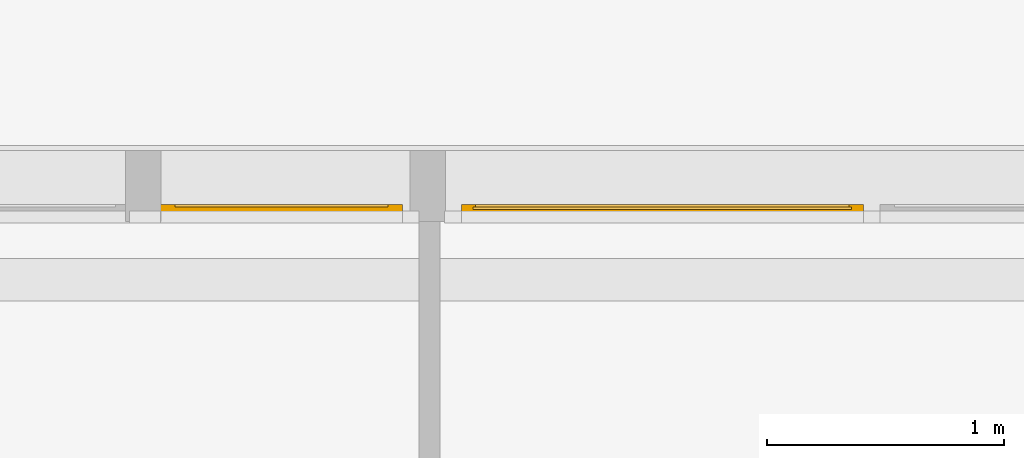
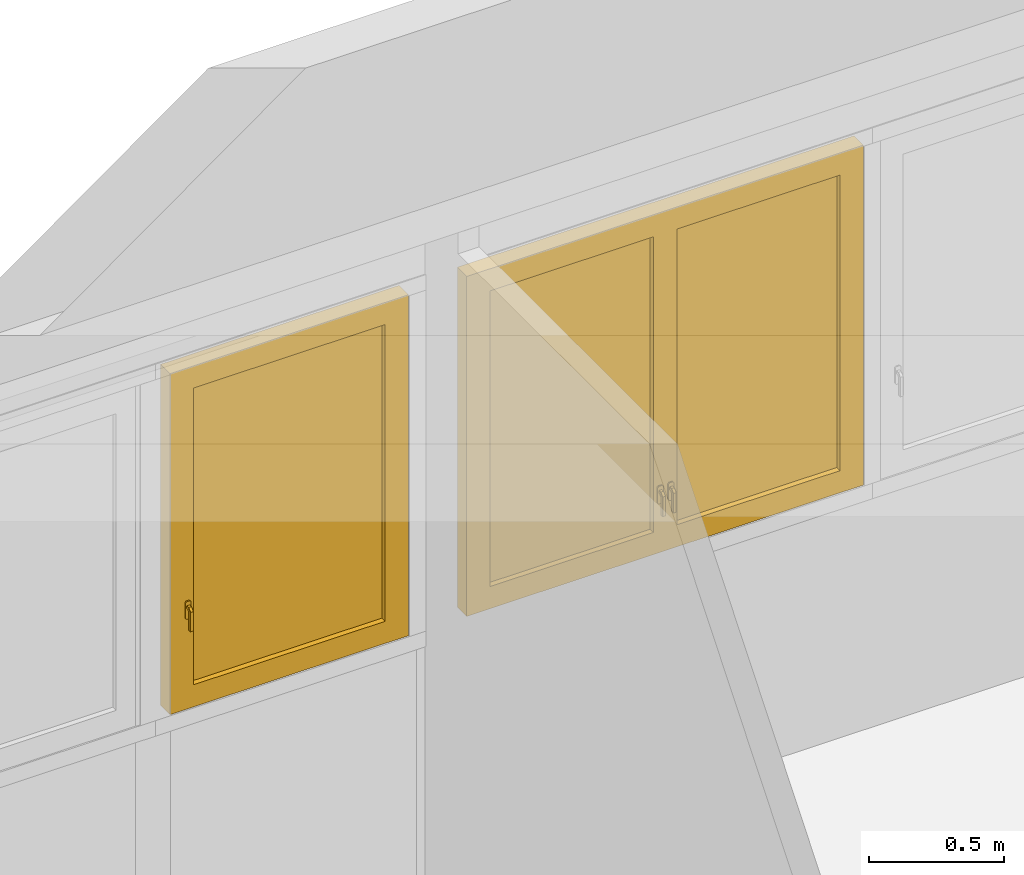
# One storey, part 45 of 49: 2 windows, 2 elements without a shape of their own.
"""IFC4 building model written with IfcOpenShell, lengths in metres."""

from ifc_helpers import new_model, entity, si_unit, converted_unit, derived_unit, direction, frame, origin, place, context, subcontext, project, spatial, polygons, source, transform, mapped, material, material_list, constituent, constituent_set, type_object, type_shapes, element, aggregate, save


model = new_model("IFC4")

# Units and contexts
model_context = context("Model", 3, precision=1e-05, world=origin(), true_north=direction((6.12303176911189e-17, 1.0)))
body_context = subcontext(model_context, "Body", "Model", "MODEL_VIEW")
ifc_project = project(units=[si_unit("LENGTHUNIT", "METRE"), si_unit("AREAUNIT", "SQUARE_METRE"), si_unit("VOLUMEUNIT", "CUBIC_METRE"), converted_unit("PLANEANGLEUNIT", "DEGREE", entity("IfcRatioMeasure", 0.0174532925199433), si_unit("PLANEANGLEUNIT", "RADIAN"), dimensions=[0, 0, 0, 0, 0, 0, 0]), si_unit("MASSUNIT", "GRAM", prefix="KILO"), derived_unit("MASSDENSITYUNIT", [(si_unit("MASSUNIT", "GRAM", prefix="KILO"), 1), (si_unit("LENGTHUNIT", "METRE"), -3)]), derived_unit("MOMENTOFINERTIAUNIT", [(si_unit("LENGTHUNIT", "METRE"), 4)]), si_unit("TIMEUNIT", "SECOND"), si_unit("FREQUENCYUNIT", "HERTZ"), si_unit("THERMODYNAMICTEMPERATUREUNIT", "DEGREE_CELSIUS"), derived_unit("THERMALTRANSMITTANCEUNIT", [(si_unit("MASSUNIT", "GRAM", prefix="KILO"), 1), (si_unit("THERMODYNAMICTEMPERATUREUNIT", "KELVIN"), -1), (si_unit("TIMEUNIT", "SECOND"), -3)]), derived_unit("VOLUMETRICFLOWRATEUNIT", [(si_unit("LENGTHUNIT", "METRE"), 3), (si_unit("TIMEUNIT", "SECOND"), -1)]), si_unit("ELECTRICCURRENTUNIT", "AMPERE"), si_unit("ELECTRICVOLTAGEUNIT", "VOLT"), si_unit("POWERUNIT", "WATT"), si_unit("FORCEUNIT", "NEWTON", prefix="KILO"), si_unit("ILLUMINANCEUNIT", "LUX"), si_unit("LUMINOUSFLUXUNIT", "LUMEN"), si_unit("LUMINOUSINTENSITYUNIT", "CANDELA"), derived_unit("USERDEFINED", [(si_unit("MASSUNIT", "GRAM", prefix="KILO"), -1), (si_unit("LENGTHUNIT", "METRE"), -2), (si_unit("TIMEUNIT", "SECOND"), 3), (si_unit("LUMINOUSFLUXUNIT", "LUMEN"), 1)]), derived_unit("LINEARVELOCITYUNIT", [(si_unit("LENGTHUNIT", "METRE"), 1), (si_unit("TIMEUNIT", "SECOND"), -1)]), si_unit("PRESSUREUNIT", "PASCAL"), derived_unit("USERDEFINED", [(si_unit("LENGTHUNIT", "METRE"), -2), (si_unit("MASSUNIT", "GRAM", prefix="KILO"), 1), (si_unit("TIMEUNIT", "SECOND"), -2)]), derived_unit("LINEARFORCEUNIT", [(si_unit("MASSUNIT", "GRAM", prefix="KILO"), 1), (si_unit("LENGTHUNIT", "METRE"), 1), (si_unit("TIMEUNIT", "SECOND"), -2), (si_unit("LENGTHUNIT", "METRE"), -1)]), derived_unit("PLANARFORCEUNIT", [(si_unit("MASSUNIT", "GRAM", prefix="KILO"), 1), (si_unit("LENGTHUNIT", "METRE"), 1), (si_unit("TIMEUNIT", "SECOND"), -2), (si_unit("LENGTHUNIT", "METRE"), -2)])], contexts=[model_context])

# Site, building, storey
site_placement = place(None, origin())
site = spatial("IfcSite", under=ifc_project, at=site_placement, Name="Default", CompositionType="ELEMENT")
building_placement = place(site_placement, origin())
building = spatial("IfcBuilding", under=site, at=building_placement, Name="HOTEL CONSULAIRE BOULOGNE SUR MER", CompositionType="ELEMENT")
storey_placement = place(building_placement, frame((0.0, 0.0, 6.81974152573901)))
storey = spatial("IfcBuildingStorey", under=building, at=storey_placement, Name="Niveau 2", CompositionType="ELEMENT", Elevation=6.81974152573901)

# Curtain wall, window
curtain_wall_type = type_object("IfcCurtainWallType", Name="Mur-rideau:Simple panneau", PredefinedType="NOTDEFINED")
curtain_wall_1_placement = place(storey_placement, frame((0.0, 0.0, -6.81974152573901)))
curtain_wall_1 = element("IfcCurtainWall", 1, at=curtain_wall_1_placement, inside=storey, type_object=curtain_wall_type, Name="Mur-rideau:Simple panneau", ObjectType="Mur-rideau:Simple panneau", PredefinedType="NOTDEFINED")
ifc_material_1 = material(Name="PVC - Blanc", Category="Plastique")
ifc_constituent_1 = constituent(ifc_material_1, Name="PVC - Blanc", Category="Matériaux")
ifc_material_2 = material(Name="Fenêtre - Vitrage", Category="Verre")
ifc_constituent_2 = constituent(ifc_material_2, Name="Fenêtre - Vitrage", Category="Matériaux")
ifc_constituent_set_1 = constituent_set(constituents=[ifc_constituent_1, ifc_constituent_2], Name="MaterialConstituentSet")
ifc_material_list_1 = material_list([ifc_material_1, ifc_material_1])
window_type_1 = type_object("IfcWindowType", Name="MR2 :MR2", PartitioningType="NOTDEFINED", PredefinedType="WINDOW", material=ifc_material_list_1)
shared_shape_1 = source(origin(), body_context, "Body", "Tessellation", [
    polygons([(-0.0173539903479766, 0.0492408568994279, 0.286556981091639), (-0.0286460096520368, 0.0492408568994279, 0.286556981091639), (-0.0300339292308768, 0.0492408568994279, 0.285169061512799), (-0.0300339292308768, 0.0492408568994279, 0.273855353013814), (-0.0286676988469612, 0.0492408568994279, 0.272489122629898), (-0.0173323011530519, 0.0492408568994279, 0.272489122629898), (-0.0159660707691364, 0.0492408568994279, 0.273855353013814), (-0.0159660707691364, 0.0492408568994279, 0.285169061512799), (-0.0159660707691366, 0.0615795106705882, 0.285169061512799), (-0.0173539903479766, 0.0621544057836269, 0.286556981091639), (-0.0159660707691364, 0.0568932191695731, 0.273855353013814), (-0.0159660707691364, 0.0635731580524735, 0.267175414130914), (-0.0159660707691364, 0.0635731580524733, 0.184523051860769), (-0.0159660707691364, 0.074886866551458, 0.184523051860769), (-0.0159660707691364, 0.074886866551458, 0.271861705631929), (-0.0173323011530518, 0.056327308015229, 0.272489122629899), (-0.0286676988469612, 0.056327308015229, 0.272489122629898), (-0.030033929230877, 0.0568932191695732, 0.273855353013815), (-0.0300339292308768, 0.0615795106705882, 0.285169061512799), (-0.0300339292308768, 0.074886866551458, 0.271861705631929), (-0.0300339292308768, 0.074886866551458, 0.184523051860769), (-0.0300339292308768, 0.0635731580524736, 0.184523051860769), (-0.0300339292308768, 0.0635731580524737, 0.267175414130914), (-0.0286460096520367, 0.062154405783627, 0.286556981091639), (-0.0173539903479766, 0.0762747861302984, 0.272436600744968), (-0.0173323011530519, 0.0622069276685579, 0.26660950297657), (-0.0286676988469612, 0.0622069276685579, 0.26660950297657), (-0.0286460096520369, 0.0762747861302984, 0.272436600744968), (-0.0173539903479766, 0.0762747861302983, 0.184523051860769), (-0.0173323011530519, 0.0622069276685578, 0.184523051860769), (-0.0286676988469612, 0.0622069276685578, 0.184523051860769), (-0.0286460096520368, 0.0762747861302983, 0.184523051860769)], [[[6, 7, 8, 1, 2, 3, 4, 5]], [[30, 26, 27, 31]], [[9, 10, 1, 8]], [[11, 12, 13, 14, 15, 9, 8, 7]], [[16, 11, 7, 6]], [[16, 6, 5, 17]], [[31, 22, 21, 32, 29, 14, 13, 30]], [[17, 5, 4, 18]], [[3, 19, 20, 21, 22, 23, 18, 4]], [[19, 3, 2, 24]], [[24, 2, 1, 10]], [[15, 25, 10, 9]], [[26, 12, 11, 16]], [[27, 26, 16, 17]], [[27, 17, 18, 23]], [[20, 19, 24, 28]], [[28, 24, 10, 25]], [[29, 25, 15, 14]], [[13, 12, 26, 30]], [[22, 31, 27, 23]], [[32, 21, 20, 28]], [[32, 28, 25, 29]]], closed=True),
    polygons([(-0.0159999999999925, 0.043240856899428, 0.304523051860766), (-0.0300000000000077, 0.043240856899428, 0.304523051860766), (-0.0350000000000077, 0.043240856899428, 0.299523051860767), (-0.0350000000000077, 0.043240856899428, 0.229523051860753), (-0.0300000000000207, 0.043240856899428, 0.224523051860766), (-0.0159999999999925, 0.043240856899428, 0.224523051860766), (-0.0110000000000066, 0.043240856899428, 0.229523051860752), (-0.0110000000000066, 0.043240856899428, 0.299523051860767), (-0.0159999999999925, 0.049240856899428, 0.304523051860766), (-0.0110000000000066, 0.049240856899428, 0.299523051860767), (-0.0110000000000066, 0.049240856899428, 0.229523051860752), (-0.0159999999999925, 0.049240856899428, 0.224523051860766), (-0.0300000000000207, 0.049240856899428, 0.224523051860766), (-0.0350000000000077, 0.049240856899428, 0.229523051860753), (-0.0350000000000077, 0.049240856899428, 0.299523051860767), (-0.0300000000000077, 0.049240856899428, 0.304523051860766)], [[[2, 3, 4, 5, 6, 7, 8, 1]], [[13, 14, 15, 16, 9, 10, 11, 12]], [[9, 1, 8, 10]], [[10, 8, 7, 11]], [[11, 7, 6, 12]], [[12, 6, 5, 13]], [[13, 5, 4, 14]], [[15, 14, 4, 3]], [[15, 3, 2, 16]], [[16, 2, 1, 9]]], closed=True),
    polygons([(0.0173539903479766, 0.0492408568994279, 0.286556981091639), (0.0159660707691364, 0.0492408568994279, 0.285169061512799), (0.0159660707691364, 0.0492408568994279, 0.273855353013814), (0.0173323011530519, 0.0492408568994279, 0.272489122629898), (0.0286676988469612, 0.0492408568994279, 0.272489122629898), (0.0300339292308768, 0.0492408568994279, 0.273855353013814), (0.0300339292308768, 0.0492408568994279, 0.285169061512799), (0.0286460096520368, 0.0492408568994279, 0.286556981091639), (0.0173539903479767, 0.062154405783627, 0.286556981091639), (0.0159660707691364, 0.0615795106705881, 0.285169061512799), (0.0159660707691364, 0.074886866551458, 0.271861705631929), (0.0159660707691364, 0.074886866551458, 0.184523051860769), (0.0159660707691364, 0.0635731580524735, 0.184523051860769), (0.0159660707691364, 0.0635731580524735, 0.267175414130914), (0.0159660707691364, 0.056893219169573, 0.273855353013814), (0.0173323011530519, 0.0563273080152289, 0.272489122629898), (0.0286676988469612, 0.0563273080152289, 0.272489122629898), (0.0300339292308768, 0.0568932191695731, 0.273855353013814), (0.0300339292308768, 0.0635731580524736, 0.267175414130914), (0.0300339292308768, 0.0635731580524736, 0.184523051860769), (0.0300339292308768, 0.074886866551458, 0.184523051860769), (0.0300339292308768, 0.0748868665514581, 0.271861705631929), (0.0300339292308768, 0.0615795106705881, 0.285169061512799), (0.0286460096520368, 0.0621544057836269, 0.286556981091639), (0.0173539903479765, 0.0762747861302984, 0.272436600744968), (0.0173323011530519, 0.0622069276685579, 0.26660950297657), (0.0286676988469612, 0.0622069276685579, 0.26660950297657), (0.0286460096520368, 0.0762747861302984, 0.272436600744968), (0.0173539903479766, 0.0762747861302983, 0.184523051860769), (0.0286460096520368, 0.0762747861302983, 0.184523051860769), (0.0286676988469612, 0.0622069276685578, 0.184523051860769), (0.0173323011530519, 0.0622069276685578, 0.184523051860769)], [[[5, 6, 7, 8, 1, 2, 3, 4]], [[27, 26, 32, 31]], [[2, 1, 9, 10]], [[2, 10, 11, 12, 13, 14, 15, 3]], [[4, 3, 15, 16]], [[5, 4, 16, 17]], [[32, 13, 12, 29, 30, 21, 20, 31]], [[6, 5, 17, 18]], [[6, 18, 19, 20, 21, 22, 23, 7]], [[8, 7, 23, 24]], [[1, 8, 24, 9]], [[10, 9, 25, 11]], [[16, 15, 14, 26]], [[17, 16, 26, 27]], [[18, 17, 27, 19]], [[24, 23, 22, 28]], [[9, 24, 28, 25]], [[11, 25, 29, 12]], [[26, 14, 13, 32]], [[19, 27, 31, 20]], [[28, 22, 21, 30]], [[25, 28, 30, 29]]], closed=True),
    polygons([(0.0159999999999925, 0.043240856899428, 0.304523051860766), (0.0110000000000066, 0.043240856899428, 0.299523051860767), (0.0110000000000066, 0.043240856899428, 0.229523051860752), (0.0159999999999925, 0.043240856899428, 0.224523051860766), (0.0300000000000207, 0.043240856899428, 0.224523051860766), (0.0350000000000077, 0.043240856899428, 0.229523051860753), (0.0350000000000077, 0.043240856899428, 0.299523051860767), (0.0300000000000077, 0.043240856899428, 0.304523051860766), (0.0159999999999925, 0.049240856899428, 0.304523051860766), (0.0300000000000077, 0.049240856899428, 0.304523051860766), (0.0350000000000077, 0.049240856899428, 0.299523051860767), (0.0350000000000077, 0.049240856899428, 0.229523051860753), (0.0300000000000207, 0.049240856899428, 0.224523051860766), (0.0159999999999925, 0.049240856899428, 0.224523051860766), (0.0110000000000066, 0.049240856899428, 0.229523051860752), (0.0110000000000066, 0.049240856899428, 0.299523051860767)], [[[1, 2, 3, 4, 5, 6, 7, 8]], [[14, 15, 16, 9, 10, 11, 12, 13]], [[2, 1, 9, 16]], [[3, 2, 16, 15]], [[4, 3, 15, 14]], [[5, 4, 14, 13]], [[6, 5, 13, 12]], [[7, 6, 12, 11]], [[8, 7, 11, 10]], [[1, 8, 10, 9]]], closed=True),
    polygons([(-0.05, 0.0192408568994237, 1.43628724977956), (-0.05, 0.0192408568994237, 0.1), (-0.748057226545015, 0.0192408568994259, 0.1), (-0.748057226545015, 0.0192408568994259, 1.43628724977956), (-0.05, 0.00724085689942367, 1.43628724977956), (-0.748057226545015, 0.00724085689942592, 1.43628724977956), (-0.748057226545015, 0.00724085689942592, 0.1), (-0.0500000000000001, 0.00724085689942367, 0.1)], [[[4, 1, 2, 3]], [[5, 6, 7, 8]], [[6, 5, 1, 4]], [[6, 4, 3, 7]], [[7, 3, 2, 8]], [[8, 2, 1, 5]]], closed=True),
    polygons([(-0.798057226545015, 0.0432408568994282, 0.05), (0.0, 0.0432408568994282, 0.05), (0.0, -0.00675914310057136, 0.05), (-0.798057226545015, -0.00675914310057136, 0.05), (-0.748057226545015, -0.00675914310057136, 0.1), (-0.05, -0.00675914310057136, 0.1), (-0.05, 0.0432408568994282, 0.1), (-0.748057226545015, 0.0432408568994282, 0.1), (0.0, 0.0432408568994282, 1.48628724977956), (0.0, -0.00675914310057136, 1.48628724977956), (-0.05, -0.00675914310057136, 1.43628724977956), (-0.05, 0.0432408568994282, 1.43628724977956), (-0.798057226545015, 0.0432408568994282, 1.48628724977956), (-0.798057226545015, -0.00675914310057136, 1.48628724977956), (-0.748057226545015, 0.0432408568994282, 1.43628724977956), (-0.748057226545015, -0.00675914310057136, 1.43628724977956)], [[[3, 4, 1, 2]], [[16, 15, 12, 11]], [[6, 7, 8, 5]], [[14, 10, 9, 13]], [[9, 10, 3, 2]], [[5, 8, 15, 16]], [[11, 12, 7, 6]], [[1, 4, 14, 13]], [[9, 2, 1, 13], [7, 12, 15, 8]], [[3, 10, 14, 4], [11, 6, 5, 16]]], closed=True),
    polygons([(0.748057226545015, 0.0192408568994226, 1.45628724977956), (0.748057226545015, 0.0192408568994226, 0.100000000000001), (0.05, 0.0192408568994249, 0.100000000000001), (0.05, 0.0192408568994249, 1.45628724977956), (0.748057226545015, 0.00724085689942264, 1.45628724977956), (0.05, 0.0072408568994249, 1.45628724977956), (0.05, 0.0072408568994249, 0.100000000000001), (0.748057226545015, 0.00724085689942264, 0.100000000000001)], [[[4, 1, 2, 3]], [[5, 6, 7, 8]], [[6, 5, 1, 4]], [[6, 4, 3, 7]], [[7, 3, 2, 8]], [[8, 2, 1, 5]]], closed=True),
    polygons([(0.748057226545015, 0.0432408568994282, 0.100000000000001), (0.05, 0.0432408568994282, 0.100000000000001), (0.05, -0.00675914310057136, 0.100000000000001), (0.748057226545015, -0.00675914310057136, 0.100000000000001), (0.798057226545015, -0.00675914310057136, 0.0500000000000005), (0.0, -0.00675914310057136, 0.0500000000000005), (0.0, 0.0432408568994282, 0.0500000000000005), (0.798057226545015, 0.0432408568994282, 0.0500000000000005), (0.05, 0.0432408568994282, 1.43628724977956), (0.05, -0.00675914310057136, 1.43628724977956), (0.0, -0.00675914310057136, 1.48628724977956), (0.0, 0.0432408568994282, 1.48628724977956), (0.798057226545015, -0.00675914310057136, 1.48628724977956), (0.748057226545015, -0.00675914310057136, 1.43628724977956), (0.748057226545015, 0.0432408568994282, 1.43628724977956), (0.798057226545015, 0.0432408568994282, 1.48628724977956)], [[[2, 3, 4, 1]], [[16, 12, 11, 13]], [[7, 8, 5, 6]], [[15, 14, 10, 9]], [[9, 10, 3, 2]], [[5, 8, 16, 13]], [[11, 12, 7, 6]], [[1, 4, 14, 15]], [[11, 6, 5, 13], [3, 10, 14, 4]], [[7, 12, 16, 8], [9, 2, 1, 15]]], closed=True),
    polygons([(-0.788057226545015, -0.016759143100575, 1.47628724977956), (0.788057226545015, -0.016759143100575, 1.47628724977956), (0.788057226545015, -0.0267591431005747, 1.47628724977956), (-0.788057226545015, -0.0267591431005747, 1.47628724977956), (-0.798057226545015, 0.0432408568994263, 1.48628724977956), (0.798057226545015, 0.0432408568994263, 1.48628724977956), (0.798057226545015, -0.016759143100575, 1.48628724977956), (-0.798057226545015, -0.016759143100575, 1.48628724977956), (-0.848057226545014, -0.0267591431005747, 1.53628724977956), (0.848057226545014, -0.0267591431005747, 1.53628724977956), (0.848057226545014, 0.0432408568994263, 1.53628724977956), (-0.848057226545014, 0.0432408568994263, 1.53628724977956), (0.788057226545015, -0.016759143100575, 0.0600000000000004), (0.788057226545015, -0.0267591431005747, 0.0600000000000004), (0.798057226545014, 0.0432408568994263, 0.0500000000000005), (0.798057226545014, -0.016759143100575, 0.0500000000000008), (0.848057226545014, -0.0267591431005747, 5.41433564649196e-16), (0.848057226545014, 0.0432408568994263, 5.41433564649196e-16), (-0.788057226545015, -0.016759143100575, 0.0600000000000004), (-0.788057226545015, -0.0267591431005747, 0.0600000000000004), (-0.798057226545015, 0.0432408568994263, 0.0500000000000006), (-0.798057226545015, -0.016759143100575, 0.0500000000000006), (-0.848057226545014, -0.0267591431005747, 5.41433564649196e-16), (-0.848057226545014, 0.0432408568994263, 5.41433564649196e-16)], [[[3, 4, 1, 2]], [[6, 7, 8, 5]], [[23, 24, 18, 17]], [[10, 11, 12, 9]], [[20, 14, 13, 19]], [[21, 22, 16, 15]], [[13, 14, 3, 2]], [[16, 7, 6, 15]], [[9, 12, 24, 23]], [[17, 18, 11, 10]], [[1, 4, 20, 19]], [[5, 8, 22, 21]], [[23, 17, 10, 9], [14, 20, 4, 3]], [[16, 22, 8, 7], [19, 13, 2, 1]], [[18, 24, 12, 11], [21, 15, 6, 5]]], closed=True),
])
type_shapes(window_type_1, [shared_shape_1])
window_1_placement = place(curtain_wall_1_placement, frame((20.74987874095, -11.5914237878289, 7.92545427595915), z_axis=(0.0, 0.0, 1.0), x_axis=(-1.0, 0.0, 0.0)))
window_1 = element("IfcWindow", 2, at=window_1_placement, type_object=window_type_1, material=ifc_constituent_set_1, Name="MR2 :MR2", ObjectType="MR2 :MR2", OverallHeight=1.53628724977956, OverallWidth=1.69611445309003, PartitioningType="NOTDEFINED", PredefinedType="WINDOW", context=body_context, shape_type="MappedRepresentation", body=[
    mapped(shared_shape_1, transform((0.0, 0.0, 0.0), scale=1.0)),
])
aggregate(curtain_wall_1, [window_1])

curtain_wall_2_placement = place(storey_placement, frame((0.0, 0.0, -6.81974152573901)))
curtain_wall_2 = element("IfcCurtainWall", 3, at=curtain_wall_2_placement, inside=storey, type_object=curtain_wall_type, Name="Mur-rideau:Simple panneau", ObjectType="Mur-rideau:Simple panneau", PredefinedType="NOTDEFINED")
ifc_constituent_3 = constituent(ifc_material_1, Name="PVC - Blanc", Category="Matériaux")
ifc_constituent_4 = constituent(ifc_material_2, Name="Fenêtre - Vitrage", Category="Matériaux")
ifc_constituent_set_2 = constituent_set(constituents=[ifc_constituent_3, ifc_constituent_4], Name="MaterialConstituentSet")
ifc_material_list_2 = material_list([ifc_material_1, ifc_material_1])
window_type_2 = type_object("IfcWindowType", Name="MR 1 Vantail:MR 1 Vantail", PartitioningType="NOTDEFINED", PredefinedType="WINDOW", material=ifc_material_list_2)
shared_shape_2 = source(origin(), body_context, "Body", "Tessellation", [
    polygons([(-0.44035415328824, -0.0492408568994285, 0.472033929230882), (-0.42906213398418, -0.0492408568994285, 0.472033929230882), (-0.42767421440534, -0.0492408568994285, 0.470646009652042), (-0.42767421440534, -0.0492408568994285, 0.459332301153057), (-0.429040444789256, -0.0492408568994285, 0.457966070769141), (-0.440375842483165, -0.0492408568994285, 0.457966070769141), (-0.44174207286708, -0.0492408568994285, 0.459332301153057), (-0.44174207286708, -0.0492408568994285, 0.470646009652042), (-0.44174207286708, -0.0615795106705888, 0.470646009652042), (-0.44035415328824, -0.0621544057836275, 0.472033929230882), (-0.44174207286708, -0.0568932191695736, 0.459332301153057), (-0.44174207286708, -0.0635731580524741, 0.452652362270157), (-0.44174207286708, -0.0635731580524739, 0.370000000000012), (-0.44174207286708, -0.0748868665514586, 0.370000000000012), (-0.44174207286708, -0.0748868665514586, 0.457338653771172), (-0.440375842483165, -0.0563273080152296, 0.457966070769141), (-0.429040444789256, -0.0563273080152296, 0.457966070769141), (-0.42767421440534, -0.0568932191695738, 0.459332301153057), (-0.42767421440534, -0.0615795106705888, 0.470646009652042), (-0.42767421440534, -0.0748868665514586, 0.457338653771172), (-0.42767421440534, -0.0748868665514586, 0.370000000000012), (-0.42767421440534, -0.0635731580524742, 0.370000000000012), (-0.42767421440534, -0.0635731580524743, 0.452652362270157), (-0.42906213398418, -0.0621544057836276, 0.472033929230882), (-0.44035415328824, -0.076274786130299, 0.457913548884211), (-0.440375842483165, -0.0622069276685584, 0.452086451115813), (-0.429040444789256, -0.0622069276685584, 0.452086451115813), (-0.42906213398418, -0.0762747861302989, 0.457913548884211), (-0.44035415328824, -0.0762747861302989, 0.370000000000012), (-0.440375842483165, -0.0622069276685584, 0.370000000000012), (-0.429040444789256, -0.0622069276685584, 0.370000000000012), (-0.42906213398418, -0.0762747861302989, 0.370000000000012)], [[[6, 7, 8, 1, 2, 3, 4, 5]], [[30, 26, 27, 31]], [[9, 10, 1, 8]], [[11, 12, 13, 14, 15, 9, 8, 7]], [[16, 11, 7, 6]], [[16, 6, 5, 17]], [[31, 22, 21, 32, 29, 14, 13, 30]], [[17, 5, 4, 18]], [[3, 19, 20, 21, 22, 23, 18, 4]], [[19, 3, 2, 24]], [[24, 2, 1, 10]], [[15, 25, 10, 9]], [[26, 12, 11, 16]], [[27, 26, 16, 17]], [[27, 17, 18, 23]], [[20, 19, 24, 28]], [[28, 24, 10, 25]], [[29, 25, 15, 14]], [[13, 12, 26, 30]], [[22, 31, 27, 23]], [[32, 21, 20, 28]], [[32, 28, 25, 29]]], closed=True),
    polygons([(-0.441708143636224, -0.0432408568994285, 0.490000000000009), (-0.427708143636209, -0.0432408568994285, 0.490000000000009), (-0.422708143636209, -0.0432408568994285, 0.48500000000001), (-0.422708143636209, -0.0432408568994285, 0.414999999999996), (-0.427708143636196, -0.0432408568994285, 0.410000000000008), (-0.441708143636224, -0.0432408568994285, 0.410000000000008), (-0.44670814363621, -0.0432408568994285, 0.414999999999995), (-0.44670814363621, -0.0432408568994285, 0.48500000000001), (-0.441708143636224, -0.0492408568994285, 0.490000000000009), (-0.44670814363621, -0.0492408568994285, 0.48500000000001), (-0.44670814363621, -0.0492408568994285, 0.414999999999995), (-0.441708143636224, -0.0492408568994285, 0.410000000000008), (-0.427708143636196, -0.0492408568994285, 0.410000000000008), (-0.422708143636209, -0.0492408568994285, 0.414999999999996), (-0.422708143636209, -0.0492408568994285, 0.48500000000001), (-0.427708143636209, -0.0492408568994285, 0.490000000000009)], [[[2, 3, 4, 5, 6, 7, 8, 1]], [[13, 14, 15, 16, 9, 10, 11, 12]], [[9, 1, 8, 10]], [[10, 8, 7, 11]], [[11, 7, 6, 12]], [[12, 6, 5, 13]], [[13, 5, 4, 14]], [[15, 14, 4, 3]], [[15, 3, 2, 16]], [[16, 2, 1, 9]]], closed=True),
    polygons([(0.409708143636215, -0.0192408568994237, 1.44128724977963), (-0.409708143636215, -0.0192408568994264, 1.44128724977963), (-0.409708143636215, -0.0192408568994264, 0.1), (0.409708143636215, -0.0192408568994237, 0.1), (0.409708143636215, -0.00724085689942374, 1.44128724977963), (0.409708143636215, -0.00724085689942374, 0.1), (-0.409708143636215, -0.00724085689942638, 0.1), (-0.409708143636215, -0.00724085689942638, 1.44128724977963)], [[[4, 1, 2, 3]], [[7, 8, 5, 6]], [[2, 1, 5, 8]], [[3, 2, 8, 7]], [[4, 3, 7, 6]], [[1, 4, 6, 5]]], closed=True),
    polygons([(-0.459708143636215, 0.0167591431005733, 1.49128724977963), (-0.459708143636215, -0.043240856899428, 1.49128724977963), (0.459708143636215, -0.043240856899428, 1.49128724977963), (0.459708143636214, 0.0167591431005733, 1.49128724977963), (-0.409708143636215, -0.043240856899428, 1.44128724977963), (-0.409708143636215, 0.0167591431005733, 1.44128724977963), (0.409708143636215, 0.0167591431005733, 1.44128724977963), (0.409708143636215, -0.043240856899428, 1.44128724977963), (0.459708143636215, -0.043240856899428, 0.0500000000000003), (0.459708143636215, 0.0167591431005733, 0.0500000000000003), (0.409708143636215, 0.0167591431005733, 0.1), (0.409708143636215, -0.043240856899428, 0.1), (-0.459708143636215, -0.043240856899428, 0.0500000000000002), (-0.459708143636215, 0.0167591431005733, 0.0500000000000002), (-0.409708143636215, 0.0167591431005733, 0.1), (-0.409708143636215, -0.043240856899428, 0.1)], [[[1, 2, 3, 4]], [[12, 11, 15, 16]], [[5, 6, 7, 8]], [[10, 9, 13, 14]], [[4, 3, 9, 10]], [[16, 15, 6, 5]], [[8, 7, 11, 12]], [[14, 13, 2, 1]], [[9, 3, 2, 13], [16, 5, 8, 12]], [[14, 1, 4, 10], [11, 7, 6, 15]]], closed=True),
    polygons([(-0.449708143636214, 0.016759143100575, 1.48128724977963), (-0.449708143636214, 0.0267591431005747, 1.48128724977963), (0.449708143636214, 0.0267591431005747, 1.48128724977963), (0.449708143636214, 0.016759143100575, 1.48128724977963), (-0.459708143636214, -0.0432408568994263, 1.49128724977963), (-0.459708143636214, 0.016759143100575, 1.49128724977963), (0.459708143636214, 0.016759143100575, 1.49128724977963), (0.459708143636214, -0.0432408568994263, 1.49128724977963), (-0.509708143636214, 0.0267591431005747, 1.54128724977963), (-0.509708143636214, -0.0432408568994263, 1.54128724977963), (0.509708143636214, -0.0432408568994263, 1.54128724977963), (0.509708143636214, 0.0267591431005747, 1.54128724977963), (0.449708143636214, 0.0267591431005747, 0.0600000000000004), (0.449708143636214, 0.016759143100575, 0.0600000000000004), (0.459708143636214, 0.016759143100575, 0.0500000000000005), (0.459708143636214, -0.0432408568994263, 0.0500000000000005), (0.509708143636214, -0.0432408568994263, 5.41433564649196e-16), (0.509708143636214, 0.0267591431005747, 5.41433564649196e-16), (-0.449708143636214, 0.0267591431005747, 0.0600000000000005), (-0.449708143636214, 0.016759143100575, 0.0600000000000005), (-0.459708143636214, 0.016759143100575, 0.0500000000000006), (-0.459708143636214, -0.0432408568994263, 0.0500000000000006), (-0.509708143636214, -0.0432408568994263, 6.09112760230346e-16), (-0.509708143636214, 0.0267591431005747, 6.09112760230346e-16)], [[[1, 2, 3, 4]], [[5, 6, 7, 8]], [[18, 17, 23, 24]], [[9, 10, 11, 12]], [[14, 13, 19, 20]], [[16, 15, 21, 22]], [[4, 3, 13, 14]], [[8, 7, 15, 16]], [[24, 23, 10, 9]], [[12, 11, 17, 18]], [[20, 19, 2, 1]], [[22, 21, 6, 5]], [[24, 9, 12, 18], [13, 3, 2, 19]], [[15, 7, 6, 21], [20, 1, 4, 14]], [[17, 11, 10, 23], [22, 5, 8, 16]]], closed=True),
])
type_shapes(window_type_2, [shared_shape_2])
window_2_placement = place(curtain_wall_2_placement, frame((19.1431133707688, -11.5914237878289, 7.92545427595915)))
window_2 = element("IfcWindow", 4, at=window_2_placement, type_object=window_type_2, material=ifc_constituent_set_2, Name="MR 1 Vantail:MR 1 Vantail", ObjectType="MR 1 Vantail:MR 1 Vantail", OverallHeight=1.54128724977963, OverallWidth=1.01941628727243, PartitioningType="NOTDEFINED", PredefinedType="WINDOW", context=body_context, shape_type="MappedRepresentation", body=[
    mapped(shared_shape_2, transform((0.0, 0.0, 0.0), scale=1.0)),
])
aggregate(curtain_wall_2, [window_2])

save(model, "model.ifc")
